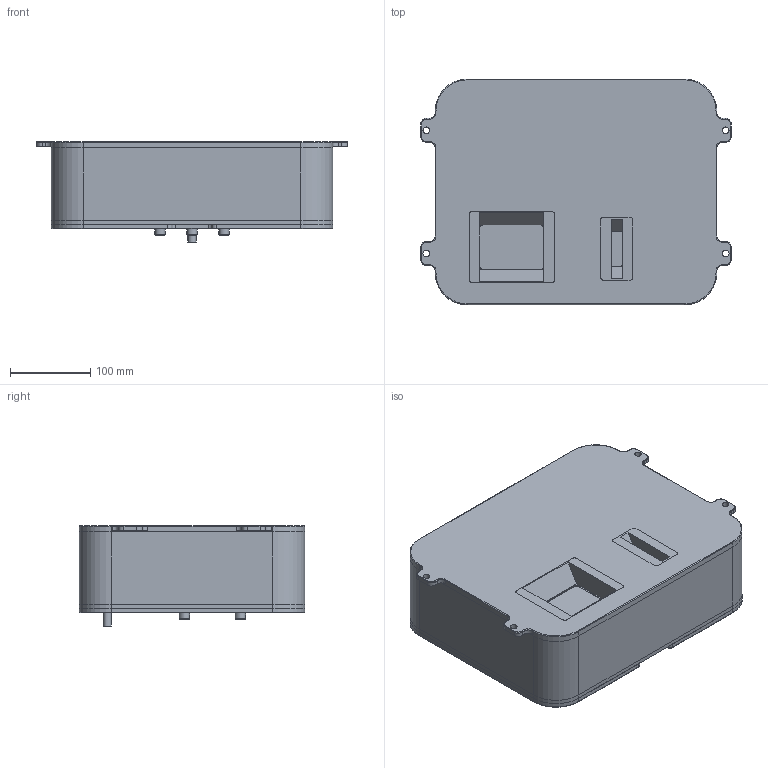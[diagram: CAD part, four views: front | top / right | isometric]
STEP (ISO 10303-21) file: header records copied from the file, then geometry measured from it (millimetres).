
FILE_DESCRIPTION((''),'2;1');
FILE_NAME('Z:\udvikling\Inventor Tegninger\Produktions Tegninger\9200 Protection House O2DS\Assemblies\O2DS Protection House 3D.stp','2017-03-24T03:36:22',('Peter'),(''),'Autodesk Inventor 2008','Autodesk Inventor 2008','');
FILE_SCHEMA(('AUTOMOTIVE_DESIGN { 1 0 10303 214 1 1 1 1 }'));
Length unit declared in the file: millimetre
Products named in the file (21): O2DS Protection House 3D; 4050-11_O2DS_Z_House; 4054-01_RødtLaserglas_15x45_RG630_HB630; 4055-01_RødtFrontglas_56x80_RG630_HB630; 3015-02_RedlineFod; M12 12pol Connector; M4skrue; 4053-11_O2DSLåg; 9201-01 InnerButtonPlate; 9202-01 OuterButtonPlate; 9204-01 InnerHouse; 9205-01 OuterHouse; 9209-01TopPlate; 9208-01TopLid; 9211-01 CablePipe; 9207-01 Spacer_10mm; 9210-01 Spacer_Ring_6mm; M5 HEX skrue; M8 HEX skrue; 9203-01 OpticWindowFrame; 9206-01 LaserWindowFrame
Assembly tree (40 placements, depth 2):
  O2DS Protection House 3D
    4050-11_O2DS_Z_House
    4054-01_RødtLaserglas_15x45_RG630_HB630
    4055-01_RødtFrontglas_56x80_RG630_HB630
    3015-02_RedlineFod  x3
    M12 12pol Connector
    M4skrue  x8
    4053-11_O2DSLåg
    9201-01 InnerButtonPlate
    9202-01 OuterButtonPlate
    9204-01 InnerHouse
    9205-01 OuterHouse
    9209-01TopPlate
    9208-01TopLid
    9211-01 CablePipe
    9207-01 Spacer_10mm
    9210-01 Spacer_Ring_6mm  x3
    M5 HEX skrue  x8
    M8 HEX skrue  x3
    9203-01 OpticWindowFrame
    9206-01 LaserWindowFrame
Bounding box: 388 x 282 x 125.98 mm (x, y, z)
Volume: 4018024 mm3; surface area: 1422920.8 mm2
Topology: 40 solids, 40 shells, 1550 faces, 3937 edges, 2562 vertices
Faces by surface type: plane 724, cylinder 647, cone 122, torus 57
Full cylindrical faces by diameter (mm): 0.5 x12, 1.567 x2, 2.459 x44, 3 x4, 3.242 x22, 3.3 x6, 4 x8, 4.134 x8, 4.4 x8, 5 x8, 5.5 x8, 6.647 x3, 6.9 x8, 8 x13, 8.376 x4, 8.5 x3, 9 x3, 10 x6, 10.106 x3, 11.445 x2, 12 x4, 12.8 x3, 13.778 x1, 14.376 x1, 15 x3, 15.3 x3, 16 x1, 25 x3
Entity records: 39529 total; most frequent: DIRECTION 7122, CARTESIAN_POINT 6695, ORIENTED_EDGE 6182, EDGE_CURVE 3091, AXIS2_PLACEMENT_3D 2664, VERTEX_POINT 2133, VECTOR 1794, LINE 1794
